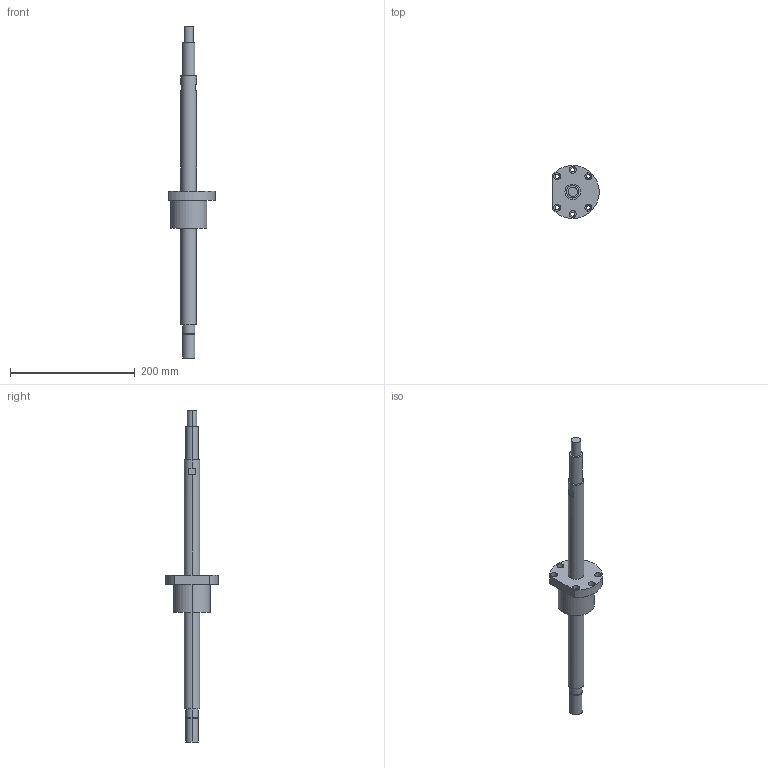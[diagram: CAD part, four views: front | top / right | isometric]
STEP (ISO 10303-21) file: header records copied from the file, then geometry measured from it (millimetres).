
FILE_DESCRIPTION((''),'2;1');
FILE_NAME('R25-10K4-FSC-370-533','2008-04-03T',('wcwu'),(''),'PRO/ENGINEER BY PARAMETRIC TECHNOLOGY CORPORATION, 2005070','PRO/ENGINEER BY PARAMETRIC TECHNOLOGY CORPORATION, 2005070','');
FILE_SCHEMA(('CONFIG_CONTROL_DESIGN'));
Length unit declared in the file: millimetre
Products named in the file (1): R25-10K4-FSC-370-533
Bounding box: 74.5 x 84.99 x 533 mm (x, y, z)
Volume: 397211.6 mm3; surface area: 59398.4 mm2
Topology: 1 solids, 1 shells, 64 faces, 144 edges, 96 vertices
Faces by surface type: cylinder 41, plane 23
Entity records: 1900 total; most frequent: DIRECTION 362, CARTESIAN_POINT 304, ORIENTED_EDGE 288, AXIS2_PLACEMENT_3D 154, EDGE_CURVE 144, VERTEX_POINT 96, EDGE_LOOP 90, CIRCLE 90
